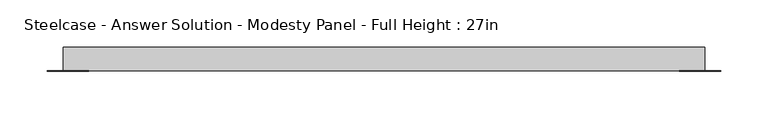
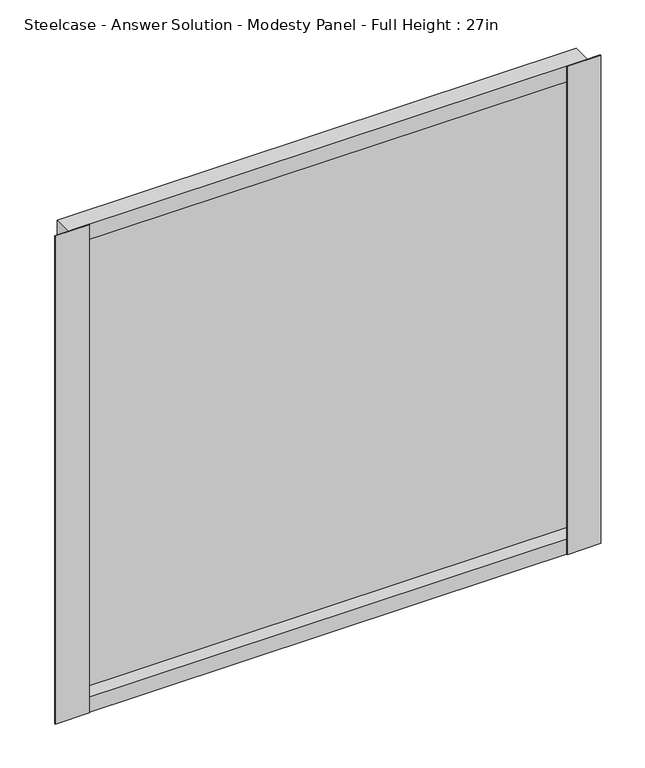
"""IFC4 building model written with IfcOpenShell, lengths in millimetres: furniture geometry, Steelcase - Answer Solution - Modesty Panel - Full Height : 27in."""

from ifc_helpers import new_model, si_unit, frame, origin, place, context, project, spatial, polyline, outline, extrude, faceted_brep, source, transform, mapped, element, save


def steelcase_answer_solution_modesty_panel_full_height_27in_94429bf9(model_context):
    return source(origin(), model_context, "Body", "SolidModel", [
        extrude(outline(polyline([(1229.3400478, -14.2668826), (1229.3400478, -15.0593624), (1184.9248254, -15.0593624), (1184.9248254, -14.2668826), (1229.3400478, -14.2668826)])), frame((0.0, 0.0, 17.653), z_axis=(0.0, 0.0, 1.0), x_axis=(1.0, 0.0, 0.0)), (0.0, 0.0, 1.0), 678.18),
        extrude(outline(polyline([(556.9673392, -14.2668826), (556.9673392, -15.0593624), (512.5520826, -15.0593624), (512.5520826, -14.2668826), (556.9673392, -14.2668826)])), frame((0.0, 0.0, 17.653), z_axis=(0.0, 0.0, 1.0), x_axis=(1.0, 0.0, 0.0)), (0.0, 0.0, 1.0), 678.18),
        faceted_brep([(530.0780827, 10.9045177, 17.653), (530.0780827, -14.2668826, 17.653), (530.0780827, -14.2668826, 695.833), (530.0780827, 10.9045177, 695.833), (1211.8140827, -14.2668826, 17.653), (1211.8140827, 10.9045177, 17.653), (1211.8140827, 10.9045177, 695.833), (1211.8140827, -14.2668826, 695.833), (1211.0216165, 4.7831174, 39.243), (530.8705628, 4.7831174, 39.243), (530.8705628, -14.2668826, 39.243), (1211.0216165, -14.2668826, 39.243), (530.8705628, -14.2668826, 674.243), (1211.0216165, -14.2668826, 674.243), (530.8705628, 4.7831174, 674.243), (1211.0216165, 4.7831174, 674.243)], [[[0, 1, 2, 3]], [[4, 5, 6, 7]], [[8, 9, 10, 11]], [[0, 3, 6, 5]], [[4, 1, 0, 5]], [[2, 1, 4, 7], [10, 12, 13, 11]], [[3, 2, 7, 6]], [[14, 15, 13, 12]], [[9, 8, 15, 14]], [[12, 10, 9, 14]], [[11, 13, 15, 8]]]),
    ])


if __name__ == "__main__":
    model = new_model("IFC4")
    model_context = context("Model", 3, world=origin())
    ifc_project = project(units=[si_unit("LENGTHUNIT", "METRE", prefix="MILLI")], contexts=[model_context])
    site = spatial("IfcSite", under=ifc_project)
    building = spatial("IfcBuilding", under=site)
    placement = place(None, origin())
    steelcase_answer_solution_modesty_panel_full_height_27in_shape = steelcase_answer_solution_modesty_panel_full_height_27in_94429bf9(model_context)
    element("IfcFurniture", 1, ObjectType="Steelcase - Answer Solution - Modesty Panel - Full Height : 27in", at=placement, inside=building, context=model_context, shape_type="MappedRepresentation", body=[
        mapped(steelcase_answer_solution_modesty_panel_full_height_27in_shape, transform((0.0, 0.0, 0.0), x_axis=(1.0, 0.0, 0.0), y_axis=(0.0, 1.0, 0.0), z_axis=(0.0, 0.0, 1.0))),
    ])
    save(model, "model.ifc")
